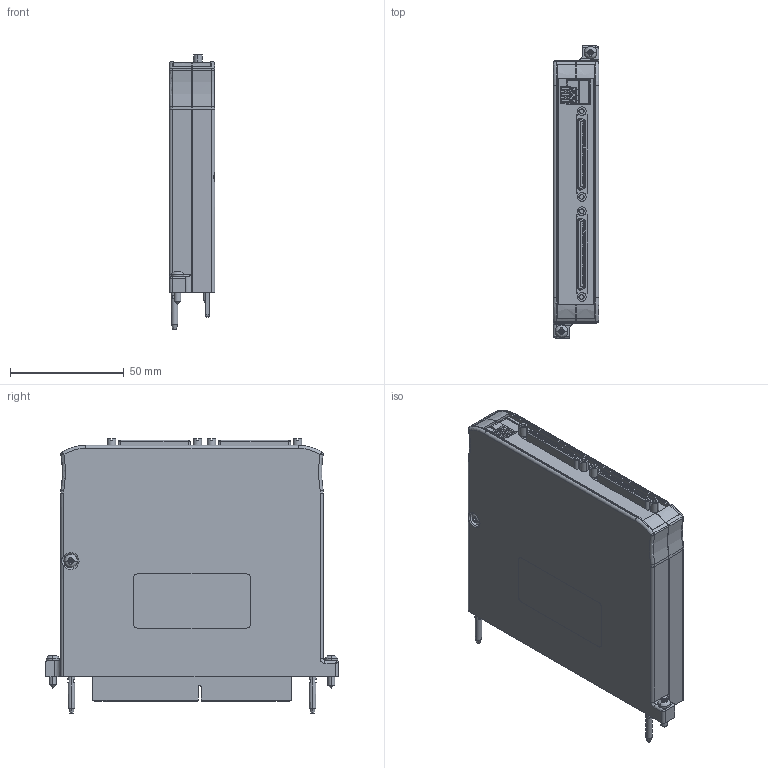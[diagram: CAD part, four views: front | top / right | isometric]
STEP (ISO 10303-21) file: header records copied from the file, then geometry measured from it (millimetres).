
FILE_DESCRIPTION((''),'2;1');
FILE_NAME('CU_NI-FLEXRIO-6581','2009-03-19T',('chrisj'),(''),'PRO/ENGINEER BY PARAMETRIC TECHNOLOGY CORPORATION, 2006300','PRO/ENGINEER BY PARAMETRIC TECHNOLOGY CORPORATION, 2006300','');
FILE_SCHEMA(('AUTOMOTIVE_DESIGN_CC2 { 1 2 10303 214 -1 1 5 2 }'));
Products named in the file (1): CU_NI-FLEXRIO-6581
Bounding box: 20.02 x 128.65 x 120.68 mm (x, y, z)
Volume: 55847.3 mm3; surface area: 93847.8 mm2
Topology: 2 solids, 2 shells, 4494 faces, 11914 edges, 7694 vertices
Faces by surface type: plane 3427, cylinder 727, cone 148, bspline 98, torus 54, sphere 40
Entity records: 145284 total; most frequent: CARTESIAN_POINT 32631, ORIENTED_EDGE 23756, DIRECTION 22154, EDGE_CURVE 11878, VECTOR 9534, LINE 9534, VERTEX_POINT 7846, AXIS2_PLACEMENT_3D 6310
